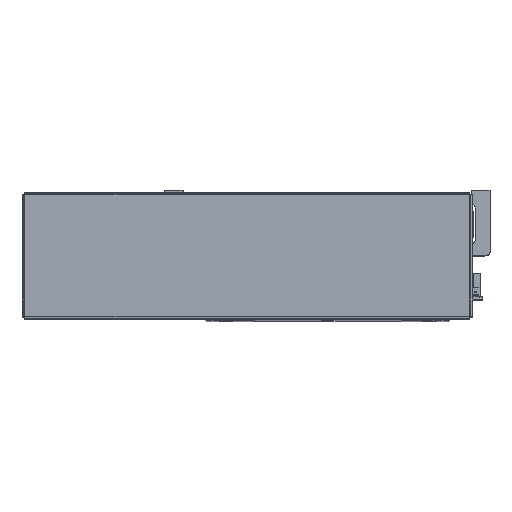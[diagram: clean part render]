
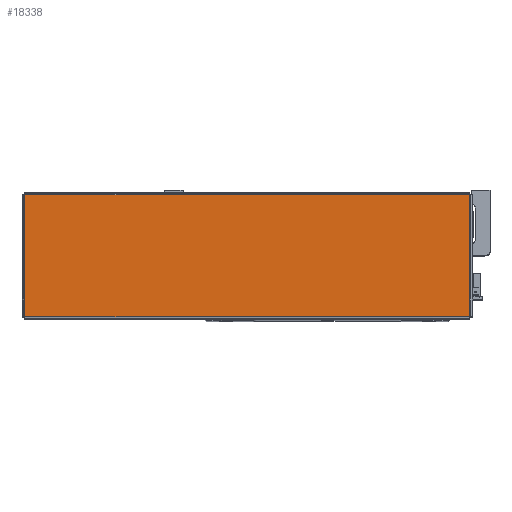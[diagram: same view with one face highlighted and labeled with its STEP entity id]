
A CAD part, top view. The second image highlights one B-rep face of the part: STEP entity #18338.
In plain terms, the highlighted planar face has unit normal (0, 0, 1) as drawn and (0, -1, 0) by its records, which use the part's own axes.
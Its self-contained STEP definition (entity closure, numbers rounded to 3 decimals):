
#13097 = EDGE_CURVE ( 'NONE', #20872, #20843, #26064, .T. ) ;
#13101 = EDGE_CURVE ( 'NONE', #20843, #20831, #26010, .T. ) ;
#13117 = EDGE_CURVE ( 'NONE', #20831, #20848, #26084, .T. ) ;
#13130 = EDGE_CURVE ( 'NONE', #20848, #20872, #26100, .T. ) ;
#17942 = EDGE_LOOP ( 'NONE', ( #29799, #29800, #29705, #29789 ) ) ;
#18338 = ADVANCED_FACE ( 'NONE', ( #31759 ), #34966, .F. ) ;
#20831 = VERTEX_POINT ( 'NONE', #42419 ) ;
#20843 = VERTEX_POINT ( 'NONE', #42402 ) ;
#20848 = VERTEX_POINT ( 'NONE', #42403 ) ;
#20872 = VERTEX_POINT ( 'NONE', #42377 ) ;
#24741 = CARTESIAN_POINT ( 'NONE',  ( -154.013, -1.2, 42.293 ) ) ;
#24760 = DIRECTION ( 'NONE',  ( 0., 0., -1. ) ) ;
#25597 = DIRECTION ( 'NONE',  ( 0., 0., 1. ) ) ;
#25598 = DIRECTION ( 'NONE',  ( -1., 0., 0. ) ) ;
#25607 = CARTESIAN_POINT ( 'NONE',  ( 154.013, -1.2, -42.293 ) ) ;
#25610 = CARTESIAN_POINT ( 'NONE',  ( 154.043, -1.2, 42.263 ) ) ;
#26010 = LINE ( 'NONE', #25610, #26011 ) ;
#26011 = VECTOR ( 'NONE', #25598, 1000. ) ;
#26064 = LINE ( 'NONE', #25607, #26065 ) ;
#26065 = VECTOR ( 'NONE', #25597, 1000. ) ;
#26084 = LINE ( 'NONE', #24741, #26110 ) ;
#26100 = LINE ( 'NONE', #28718, #26120 ) ;
#26110 = VECTOR ( 'NONE', #24760, 1000. ) ;
#26120 = VECTOR ( 'NONE', #28746, 1000. ) ;
#28718 = CARTESIAN_POINT ( 'NONE',  ( -154.043, -1.2, -42.263 ) ) ;
#28746 = DIRECTION ( 'NONE',  ( 1., 0., 0. ) ) ;
#29705 = ORIENTED_EDGE ( 'NONE', *, *, #13117, .T. ) ;
#29789 = ORIENTED_EDGE ( 'NONE', *, *, #13130, .T. ) ;
#29799 = ORIENTED_EDGE ( 'NONE', *, *, #13097, .T. ) ;
#29800 = ORIENTED_EDGE ( 'NONE', *, *, #13101, .T. ) ;
#31759 = FACE_OUTER_BOUND ( 'NONE', #17942, .T. ) ;
#33599 = AXIS2_PLACEMENT_3D ( 'NONE', #34993, #34969, #34972 ) ;
#34966 = PLANE ( 'NONE',  #33599 ) ;
#34969 = DIRECTION ( 'NONE',  ( 0., 1., 0. ) ) ;
#34972 = DIRECTION ( 'NONE',  ( 0., 0., 1. ) ) ;
#34993 = CARTESIAN_POINT ( 'NONE',  ( 0., -1.2, 0. ) ) ;
#42377 = CARTESIAN_POINT ( 'NONE',  ( 154.013, -1.2, -42.263 ) ) ;
#42402 = CARTESIAN_POINT ( 'NONE',  ( 154.013, -1.2, 42.263 ) ) ;
#42403 = CARTESIAN_POINT ( 'NONE',  ( -154.013, -1.2, -42.263 ) ) ;
#42419 = CARTESIAN_POINT ( 'NONE',  ( -154.013, -1.2, 42.263 ) ) ;
